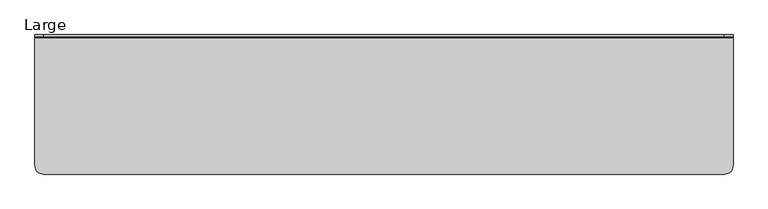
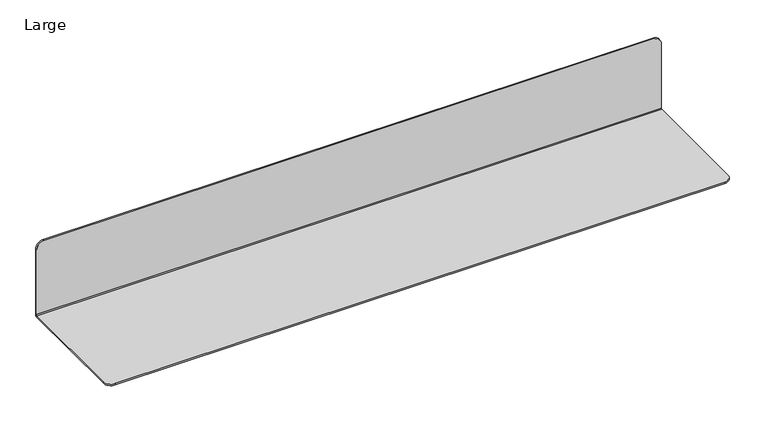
"""IFC4 building model written with IfcOpenShell, lengths in millimetres: furniture geometry, Blu Dot - Welf - Wall Shelf : Large."""

from ifc_helpers import new_model, si_unit, frame, origin, place, context, project, spatial, polyline, circle_curve, source, transform, mapped, element, save
from ifc_brep_helpers import plane_surface, cylinder_surface, revolved_surface, advanced_brep


def large_eedbdc1d(model_context):
    return source(origin(), model_context, "Body", "AdvancedBrep", [
        advanced_brep(
        [(508.0, 99.06, 3.81), (508.0, 99.06, 114.3), (495.3, 99.06, 127.0), (-495.3, 99.06, 127.0), (-508.0, 99.06, 114.3), (-508.0, 99.06, 3.81), (-508.0, 101.6, 114.3), (-495.3, 101.6, 127.0), (495.3, 101.6, 127.0), (508.0, 101.6, 114.3), (508.0, 101.6, 2.54), (-508.0, 101.6, 2.54), (508.0, 97.79, 2.54), (508.0, -88.9, 2.54), (508.0, -88.9, 0.0), (508.0, 99.06, 0.0), (-508.0, 99.06, 0.0), (-508.0, -88.9, 0.0), (-508.0, -88.9, 2.54), (-508.0, 97.79, 2.54), (495.3, -101.6, 0.0), (-495.3, -101.6, 0.0), (-495.3, -101.6, 2.54), (495.3, -101.6, 2.54)],
        [
            (0, 1),
            (1, 2, circle_curve(frame((495.3, 99.06, 114.3), z_axis=(0.0, -1.0, 0.0), x_axis=(1.0, 0.0, 0.0)), 12.7)),
            (2, 3),
            (3, 4, circle_curve(frame((-495.3, 99.06, 114.3), z_axis=(0.0, -1.0, 0.0), x_axis=(1.0, 0.0, 0.0)), 12.7)),
            (4, 5),
            (5, 0),
            (6, 7, circle_curve(frame((-495.3, 101.6, 114.3), z_axis=(0.0, 1.0, 0.0), x_axis=(1.0, 0.0, 0.0)), 12.7)),
            (7, 8),
            (8, 9, circle_curve(frame((495.3, 101.6, 114.3), z_axis=(0.0, 1.0, 0.0), x_axis=(1.0, 0.0, 0.0)), 12.7)),
            (9, 10),
            (10, 11),
            (11, 6),
            (0, 12, circle_curve(frame((508.0, 97.79, 3.81), z_axis=(-1.0, 0.0, 0.0), x_axis=(0.0, 1.0, 0.0)), 1.27)),
            (12, 13),
            (13, 14),
            (14, 15),
            (15, 10, circle_curve(frame((508.0, 99.06, 2.54), z_axis=(1.0, 0.0, 0.0), x_axis=(0.0, 1.0, 0.0)), 2.54)),
            (9, 1),
            (8, 2),
            (7, 3),
            (6, 4),
            (11, 16, circle_curve(frame((-508.0, 99.06, 2.54), z_axis=(-1.0, 0.0, 0.0), x_axis=(0.0, 1.0, 0.0)), 2.54)),
            (16, 17),
            (17, 18),
            (18, 19),
            (19, 5, circle_curve(frame((-508.0, 97.79, 3.81), z_axis=(1.0, 0.0, 0.0), x_axis=(0.0, 1.0, 0.0)), 1.27)),
            (19, 12),
            (14, 20, circle_curve(frame((495.3, -88.9, 0.0), z_axis=(0.0, 0.0, -1.0), x_axis=(1.0, 0.0, 0.0)), 12.7)),
            (20, 21),
            (21, 17, circle_curve(frame((-495.3, -88.9, 0.0), z_axis=(0.0, 0.0, -1.0), x_axis=(1.0, 0.0, 0.0)), 12.7)),
            (16, 15),
            (18, 22, circle_curve(frame((-495.3, -88.9, 2.54), z_axis=(0.0, 0.0, 1.0), x_axis=(1.0, 0.0, 0.0)), 12.7)),
            (22, 23),
            (23, 13, circle_curve(frame((495.3, -88.9, 2.54), z_axis=(0.0, 0.0, 1.0), x_axis=(1.0, 0.0, 0.0)), 12.7)),
            (21, 22),
            (20, 23),
        ],
        [
            plane_surface(frame((-508.0, 99.06, 3.81), z_axis=(0.0, -1.0, 0.0), x_axis=(1.0, 0.0, 0.0))),
            plane_surface(frame((-508.0, 101.6, 3.81), z_axis=(0.0, 1.0, 0.0), x_axis=(-1.0, 0.0, 0.0))),
            plane_surface(frame((508.0, 99.06, 3.81), z_axis=(1.0, 0.0, 0.0), x_axis=(0.0, 1.0, 0.0))),
            cylinder_surface(frame((495.3, 101.6, 114.3), z_axis=(0.0, -1.0, 0.0), x_axis=(1.0, 0.0, 0.0)), 12.7),
            plane_surface(frame((495.3, 99.06, 127.0), z_axis=(0.0, 0.0, 1.0), x_axis=(0.0, 1.0, 0.0))),
            cylinder_surface(frame((-495.3, 101.6, 114.3), z_axis=(0.0, -1.0, 0.0), x_axis=(1.0, 0.0, 0.0)), 12.7),
            plane_surface(frame((-508.0, 99.06, 114.3), z_axis=(-1.0, 0.0, 0.0), x_axis=(0.0, 1.0, 0.0))),
            revolved_surface(polyline([(-508.0, 99.06, 3.81), (508.0, 99.06, 3.81)]), (-508.0, 97.79, 3.81), (-1.0, 0.0, 0.0)),
            plane_surface(frame((508.0, 97.79, 0.0), z_axis=(0.0, 0.0, -1.0), x_axis=(-1.0, 0.0, 0.0))),
            cylinder_surface(frame((-508.0, 99.06, 2.54), z_axis=(1.0, 0.0, 0.0), x_axis=(0.0, 1.0, 0.0)), 2.54),
            plane_surface(frame((-482.6, -88.9, 2.54), z_axis=(0.0, 0.0, 1.0), x_axis=(0.0, 1.0, 0.0))),
            cylinder_surface(frame((-495.3, -88.9, 0.0), z_axis=(0.0, 0.0, 1.0), x_axis=(1.0, 0.0, 0.0)), 12.7),
            plane_surface(frame((-495.3, -101.6, 2.54), z_axis=(0.0, -1.0, 0.0), x_axis=(0.0, 0.0, -1.0))),
            cylinder_surface(frame((495.3, -88.9, 0.0), z_axis=(0.0, 0.0, 1.0), x_axis=(1.0, 0.0, 0.0)), 12.7),
        ],
        [
            (0, [[1, 2, 3, 4, 5, 6]]),
            (1, [[7, 8, 9, 10, 11, 12]]),
            (2, [[-1, 13, 14, 15, 16, 17, -10, 18]]),
            (3, [[-2, -18, -9, 19]]),
            (4, [[-3, -19, -8, 20]]),
            (5, [[-4, -20, -7, 21]]),
            (6, [[-5, -21, -12, 22, 23, 24, 25, 26]]),
            (7, [[-13, -6, -26, 27]]),
            (8, [[-16, 28, 29, 30, -23, 31]]),
            (9, [[-17, -31, -22, -11]]),
            (10, [[32, 33, 34, -14, -27, -25]]),
            (11, [[-32, -24, -30, 35]]),
            (12, [[-33, -35, -29, 36]]),
            (13, [[-34, -36, -28, -15]]),
        ],
    ),
    ])


if __name__ == "__main__":
    model = new_model("IFC4")
    model_context = context("Model", 3, world=origin())
    ifc_project = project(units=[si_unit("LENGTHUNIT", "METRE", prefix="MILLI")], contexts=[model_context])
    site = spatial("IfcSite", under=ifc_project)
    building = spatial("IfcBuilding", under=site)
    placement = place(None, origin())
    large_shape = large_eedbdc1d(model_context)
    element("IfcFurniture", 1, ObjectType="Blu Dot - Welf - Wall Shelf : Large", at=placement, inside=building, context=model_context, shape_type="MappedRepresentation", body=[
        mapped(large_shape, transform((0.0, 0.0, 0.0), x_axis=(1.0, 0.0, 0.0), y_axis=(0.0, 1.0, 0.0), z_axis=(0.0, 0.0, 1.0))),
    ])
    save(model, "model.ifc")
